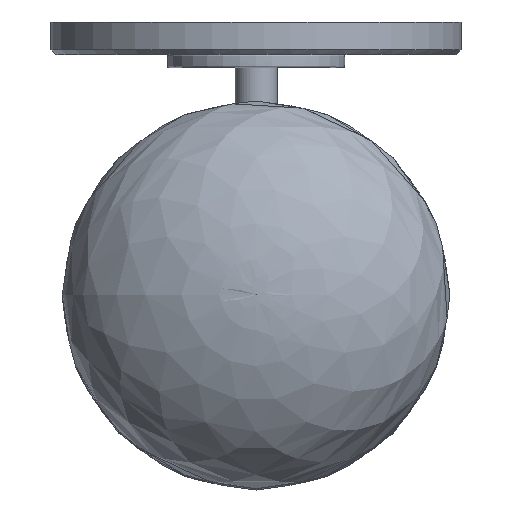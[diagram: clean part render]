
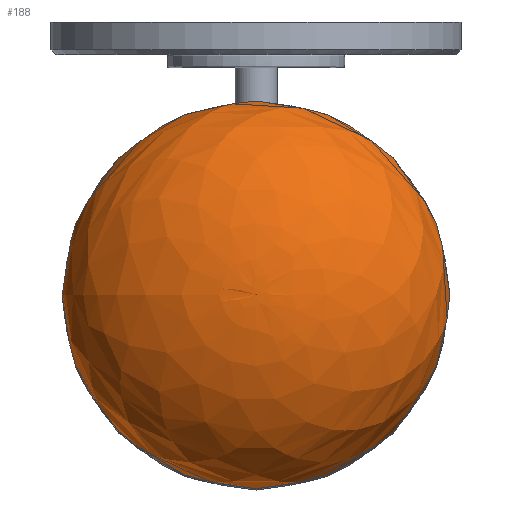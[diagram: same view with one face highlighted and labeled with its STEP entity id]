
A CAD part, top view. The second image highlights one B-rep face of the part: STEP entity #188.
In plain terms, the highlighted free-form (B-spline) face has degree [2, 3] with [9, 7] control points.
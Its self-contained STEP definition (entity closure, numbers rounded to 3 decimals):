
#188=ADVANCED_FACE('',(#385),#2705,.T.);
#385=FACE_OUTER_BOUND('',#593,.T.);
#593=EDGE_LOOP('',(#1008,#1009,#1010));
#1008=ORIENTED_EDGE('',*,*,#1676,.F.);
#1009=ORIENTED_EDGE('',*,*,#1676,.T.);
#1010=ORIENTED_EDGE('',*,*,#1679,.F.);
#1676=EDGE_CURVE('',#2447,#2450,#2028,.T.);
#1679=EDGE_CURVE('',#2450,#2450,#2031,.T.);
#2028=(
BOUNDED_CURVE()
B_SPLINE_CURVE(3,(#4762,#4763,#4764,#4765,#4766,#4767,#4768),
 .UNSPECIFIED.,.F.,.F.)
B_SPLINE_CURVE_WITH_KNOTS((4,3,4),(7.854,9.425,10.533),
 .UNSPECIFIED.)
CURVE()
GEOMETRIC_REPRESENTATION_ITEM()
RATIONAL_B_SPLINE_CURVE((1.,0.805,0.805,1.,0.9,
0.896,1.))
REPRESENTATION_ITEM('')
);
#2031=(
BOUNDED_CURVE()
B_SPLINE_CURVE(2,(#4879,#4880,#4881,#4882,#4883,#4884,#4885,#4886,#4887),
 .UNSPECIFIED.,.T.,.F.)
B_SPLINE_CURVE_WITH_KNOTS((3,2,2,2,3),(0.,87.945,175.891,
263.836,351.781),.UNSPECIFIED.)
CURVE()
GEOMETRIC_REPRESENTATION_ITEM()
RATIONAL_B_SPLINE_CURVE((1.,0.707,1.,0.707,1.,0.707,
1.,0.707,1.))
REPRESENTATION_ITEM('')
);
#2447=VERTEX_POINT('',#4758);
#2450=VERTEX_POINT('',#4761);
#2705=(
BOUNDED_SURFACE()
B_SPLINE_SURFACE(2,3,((#4659,#4660,#4661,#4662,#4663,#4664,#4665),(#4666,
#4667,#4668,#4669,#4670,#4671,#4672),(#4673,#4674,#4675,#4676,#4677,#4678,
#4679),(#4680,#4681,#4682,#4683,#4684,#4685,#4686),(#4687,#4688,#4689,#4690,
#4691,#4692,#4693),(#4694,#4695,#4696,#4697,#4698,#4699,#4700),(#4701,#4702,
#4703,#4704,#4705,#4706,#4707),(#4708,#4709,#4710,#4711,#4712,#4713,#4714),
(#4715,#4716,#4717,#4718,#4719,#4720,#4721)),.UNSPECIFIED.,.T.,.F.,.F.)
B_SPLINE_SURFACE_WITH_KNOTS((3,2,2,2,3),(4,3,4),(0.,87.945,175.891,
263.836,351.781),(7.854,9.425,10.533),
 .UNSPECIFIED.)
GEOMETRIC_REPRESENTATION_ITEM()
RATIONAL_B_SPLINE_SURFACE(((1.,0.805,0.805,1.,0.862,
0.822,0.878),(0.707,0.569,
0.569,0.707,0.61,0.581,
0.621),(1.,0.805,0.805,1.,0.862,
0.822,0.878),(0.707,0.569,
0.569,0.707,0.61,0.581,
0.621),(1.,0.805,0.805,1.,0.862,
0.822,0.878),(0.707,0.569,
0.569,0.707,0.61,0.581,
0.621),(1.,0.805,0.805,1.,0.862,
0.822,0.878),(0.707,0.569,
0.569,0.707,0.61,0.581,
0.621),(1.,0.805,0.805,1.,0.862,
0.822,0.878)))
REPRESENTATION_ITEM('')
SURFACE()
);
#4659=CARTESIAN_POINT('',(0.,-74.555,155.004));
#4660=CARTESIAN_POINT('',(-35.147,-74.555,155.004));
#4661=CARTESIAN_POINT('',(-60.,-74.555,137.357));
#4662=CARTESIAN_POINT('',(-60.,-74.555,112.4));
#4663=CARTESIAN_POINT('',(-60.,-74.555,95.968));
#4664=CARTESIAN_POINT('',(-47.886,-74.555,81.476));
#4665=CARTESIAN_POINT('',(-26.,-74.555,74.004));
#4666=CARTESIAN_POINT('',(0.,-74.555,155.004));
#4667=CARTESIAN_POINT('',(-35.147,-39.408,155.004));
#4668=CARTESIAN_POINT('',(-60.,-14.555,137.357));
#4669=CARTESIAN_POINT('',(-60.,-14.555,112.4));
#4670=CARTESIAN_POINT('',(-60.,-14.555,95.968));
#4671=CARTESIAN_POINT('',(-47.886,-26.669,81.476));
#4672=CARTESIAN_POINT('',(-26.,-48.555,74.004));
#4673=CARTESIAN_POINT('',(0.,-74.555,155.004));
#4674=CARTESIAN_POINT('',(0.,-39.408,155.004));
#4675=CARTESIAN_POINT('',(0.,-14.555,137.357));
#4676=CARTESIAN_POINT('',(0.,-14.555,112.4));
#4677=CARTESIAN_POINT('',(0.,-14.555,95.968));
#4678=CARTESIAN_POINT('',(0.,-26.669,81.476));
#4679=CARTESIAN_POINT('',(0.,-48.555,74.004));
#4680=CARTESIAN_POINT('',(0.,-74.555,155.004));
#4681=CARTESIAN_POINT('',(35.147,-39.408,155.004));
#4682=CARTESIAN_POINT('',(60.,-14.555,137.357));
#4683=CARTESIAN_POINT('',(60.,-14.555,112.4));
#4684=CARTESIAN_POINT('',(60.,-14.555,95.968));
#4685=CARTESIAN_POINT('',(47.886,-26.669,81.476));
#4686=CARTESIAN_POINT('',(26.,-48.555,74.004));
#4687=CARTESIAN_POINT('',(0.,-74.555,155.004));
#4688=CARTESIAN_POINT('',(35.147,-74.555,155.004));
#4689=CARTESIAN_POINT('',(60.,-74.555,137.357));
#4690=CARTESIAN_POINT('',(60.,-74.555,112.4));
#4691=CARTESIAN_POINT('',(60.,-74.555,95.968));
#4692=CARTESIAN_POINT('',(47.886,-74.555,81.476));
#4693=CARTESIAN_POINT('',(26.,-74.555,74.004));
#4694=CARTESIAN_POINT('',(0.,-74.555,155.004));
#4695=CARTESIAN_POINT('',(35.147,-109.702,155.004));
#4696=CARTESIAN_POINT('',(60.,-134.555,137.357));
#4697=CARTESIAN_POINT('',(60.,-134.555,112.4));
#4698=CARTESIAN_POINT('',(60.,-134.555,95.968));
#4699=CARTESIAN_POINT('',(47.886,-122.441,81.476));
#4700=CARTESIAN_POINT('',(26.,-100.555,74.004));
#4701=CARTESIAN_POINT('',(0.,-74.555,155.004));
#4702=CARTESIAN_POINT('',(0.,-109.702,155.004));
#4703=CARTESIAN_POINT('',(0.,-134.555,137.357));
#4704=CARTESIAN_POINT('',(0.,-134.555,112.4));
#4705=CARTESIAN_POINT('',(0.,-134.555,95.968));
#4706=CARTESIAN_POINT('',(0.,-122.441,81.476));
#4707=CARTESIAN_POINT('',(0.,-100.555,74.004));
#4708=CARTESIAN_POINT('',(0.,-74.555,155.004));
#4709=CARTESIAN_POINT('',(-35.147,-109.702,155.004));
#4710=CARTESIAN_POINT('',(-60.,-134.555,137.357));
#4711=CARTESIAN_POINT('',(-60.,-134.555,112.4));
#4712=CARTESIAN_POINT('',(-60.,-134.555,95.968));
#4713=CARTESIAN_POINT('',(-47.886,-122.441,81.476));
#4714=CARTESIAN_POINT('',(-26.,-100.555,74.004));
#4715=CARTESIAN_POINT('',(0.,-74.555,155.004));
#4716=CARTESIAN_POINT('',(-35.147,-74.555,155.004));
#4717=CARTESIAN_POINT('',(-60.,-74.555,137.357));
#4718=CARTESIAN_POINT('',(-60.,-74.555,112.4));
#4719=CARTESIAN_POINT('',(-60.,-74.555,95.968));
#4720=CARTESIAN_POINT('',(-47.886,-74.555,81.476));
#4721=CARTESIAN_POINT('',(-26.,-74.555,74.004));
#4758=CARTESIAN_POINT('',(0.,-74.555,155.004));
#4761=CARTESIAN_POINT('',(-26.,-74.555,74.004));
#4762=CARTESIAN_POINT('',(0.,-74.555,155.004));
#4763=CARTESIAN_POINT('',(-35.147,-74.555,155.004));
#4764=CARTESIAN_POINT('',(-60.,-74.555,137.357));
#4765=CARTESIAN_POINT('',(-60.,-74.555,112.4));
#4766=CARTESIAN_POINT('',(-60.,-74.555,95.968));
#4767=CARTESIAN_POINT('',(-47.886,-74.555,81.476));
#4768=CARTESIAN_POINT('',(-26.,-74.555,74.004));
#4879=CARTESIAN_POINT('',(-26.,-74.555,74.004));
#4880=CARTESIAN_POINT('',(-26.,-48.555,74.004));
#4881=CARTESIAN_POINT('',(0.,-48.555,74.004));
#4882=CARTESIAN_POINT('',(26.,-48.555,74.004));
#4883=CARTESIAN_POINT('',(26.,-74.555,74.004));
#4884=CARTESIAN_POINT('',(26.,-100.555,74.004));
#4885=CARTESIAN_POINT('',(0.,-100.555,74.004));
#4886=CARTESIAN_POINT('',(-26.,-100.555,74.004));
#4887=CARTESIAN_POINT('',(-26.,-74.555,74.004));
